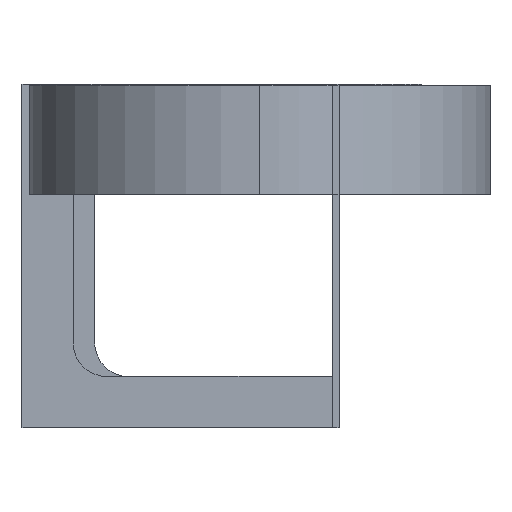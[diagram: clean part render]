
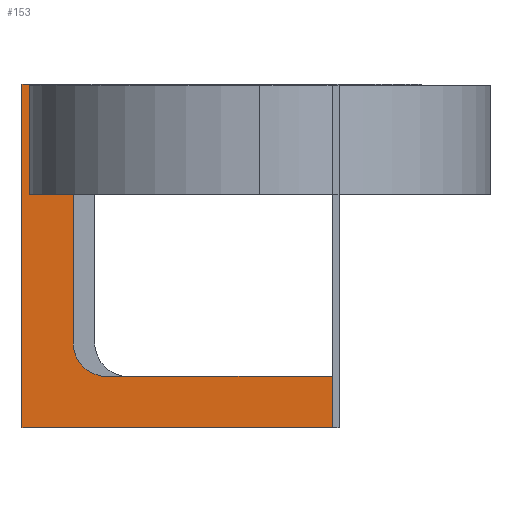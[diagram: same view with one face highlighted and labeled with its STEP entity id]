
A CAD part, left-side view. The second image highlights one B-rep face of the part: STEP entity #153.
In plain terms, the highlighted planar face has unit normal (-1, 0, 0).
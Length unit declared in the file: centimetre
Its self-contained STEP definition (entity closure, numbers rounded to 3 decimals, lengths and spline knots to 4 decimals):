
#153=ADVANCED_FACE('',(#303),#2150,.T.);
#303=FACE_OUTER_BOUND('',#459,.T.);
#459=EDGE_LOOP('',(#1001,#1002,#1003,#1004,#1005,#1006,#1007));
#1001=ORIENTED_EDGE('',*,*,#1432,.T.);
#1002=ORIENTED_EDGE('',*,*,#1426,.T.);
#1003=ORIENTED_EDGE('',*,*,#1422,.T.);
#1004=ORIENTED_EDGE('',*,*,#1420,.T.);
#1005=ORIENTED_EDGE('',*,*,#1417,.T.);
#1006=ORIENTED_EDGE('',*,*,#1413,.T.);
#1007=ORIENTED_EDGE('',*,*,#1429,.F.);
#1413=EDGE_CURVE('',#1999,#2009,#1599,.T.);
#1417=EDGE_CURVE('',#2001,#1999,#1603,.T.);
#1420=EDGE_CURVE('',#2002,#2001,#1606,.T.);
#1422=EDGE_CURVE('',#2006,#2002,#1608,.T.);
#1426=EDGE_CURVE('',#2007,#2006,#1843,.T.);
#1429=EDGE_CURVE('',#2011,#2009,#1613,.T.);
#1432=EDGE_CURVE('',#2011,#2007,#1616,.T.);
#1599=B_SPLINE_CURVE_WITH_KNOTS('',1,(#3603,#3604),.UNSPECIFIED.,.F.,.F.,
(2,2),(0.,39.0493),.UNSPECIFIED.);
#1603=B_SPLINE_CURVE_WITH_KNOTS('',1,(#3611,#3612),.UNSPECIFIED.,.F.,.F.,
(2,2),(150.9537,191.9074),.UNSPECIFIED.);
#1606=B_SPLINE_CURVE_WITH_KNOTS('',1,(#3617,#3618),.UNSPECIFIED.,.F.,.F.,
(2,2),(144.8471,150.9537),.UNSPECIFIED.);
#1608=B_SPLINE_CURVE_WITH_KNOTS('',1,(#3621,#3622),.UNSPECIFIED.,.F.,.F.,
(2,2),(4.4075,38.3798),.UNSPECIFIED.);
#1613=B_SPLINE_CURVE_WITH_KNOTS('',1,(#3637,#3638),.UNSPECIFIED.,.F.,.F.,
(2,2),(-6.1226,0.),.UNSPECIFIED.);
#1616=B_SPLINE_CURVE_WITH_KNOTS('',1,(#3643,#3644),.UNSPECIFIED.,.F.,.F.,
(2,2),(149.5615,186.7656),.UNSPECIFIED.);
#1843=(
BOUNDED_CURVE()
B_SPLINE_CURVE(2,(#3630,#3631,#3632),.UNSPECIFIED.,.F.,.F.)
B_SPLINE_CURVE_WITH_KNOTS((3,3),(-6.2832,0.),.UNSPECIFIED.)
CURVE()
GEOMETRIC_REPRESENTATION_ITEM()
RATIONAL_B_SPLINE_CURVE((1.,0.707,1.))
REPRESENTATION_ITEM('')
);
#1999=VERTEX_POINT('',#3588);
#2001=VERTEX_POINT('',#3590);
#2002=VERTEX_POINT('',#3591);
#2006=VERTEX_POINT('',#3595);
#2007=VERTEX_POINT('',#3596);
#2009=VERTEX_POINT('',#3598);
#2011=VERTEX_POINT('',#3600);
#2150=PLANE('',#2395);
#2395=AXIS2_PLACEMENT_3D('',#3585,#2524,$);
#2524=DIRECTION('',(-1.,0.,0.));
#3585=CARTESIAN_POINT('',(29.7912,42.4893,0.));
#3588=CARTESIAN_POINT('',(29.7912,42.4893,0.));
#3590=CARTESIAN_POINT('',(29.7912,42.4893,40.9537));
#3591=CARTESIAN_POINT('',(29.7912,36.3827,40.9537));
#3595=CARTESIAN_POINT('',(29.7912,36.3827,10.1226));
#3596=CARTESIAN_POINT('',(29.7912,32.3827,6.1226));
#3598=CARTESIAN_POINT('',(29.7912,5.5461,0.));
#3600=CARTESIAN_POINT('',(29.7912,5.5461,6.1226));
#3603=CARTESIAN_POINT('',(29.7912,42.4893,0.));
#3604=CARTESIAN_POINT('',(29.7912,5.5461,0.));
#3611=CARTESIAN_POINT('',(29.7912,42.4893,40.9537));
#3612=CARTESIAN_POINT('',(29.7912,42.4893,0.));
#3617=CARTESIAN_POINT('',(29.7912,36.3827,40.9537));
#3618=CARTESIAN_POINT('',(29.7912,42.4893,40.9537));
#3621=CARTESIAN_POINT('',(29.7912,36.3827,10.1226));
#3622=CARTESIAN_POINT('',(29.7912,36.3827,40.9537));
#3630=CARTESIAN_POINT('',(29.7912,32.3827,6.1226));
#3631=CARTESIAN_POINT('',(29.7912,36.3827,6.1226));
#3632=CARTESIAN_POINT('',(29.7912,36.3827,10.1226));
#3637=CARTESIAN_POINT('',(29.7912,5.5461,6.1226));
#3638=CARTESIAN_POINT('',(29.7912,5.5461,0.));
#3643=CARTESIAN_POINT('',(29.7912,5.5461,6.1226));
#3644=CARTESIAN_POINT('',(29.7912,32.3827,6.1226));
